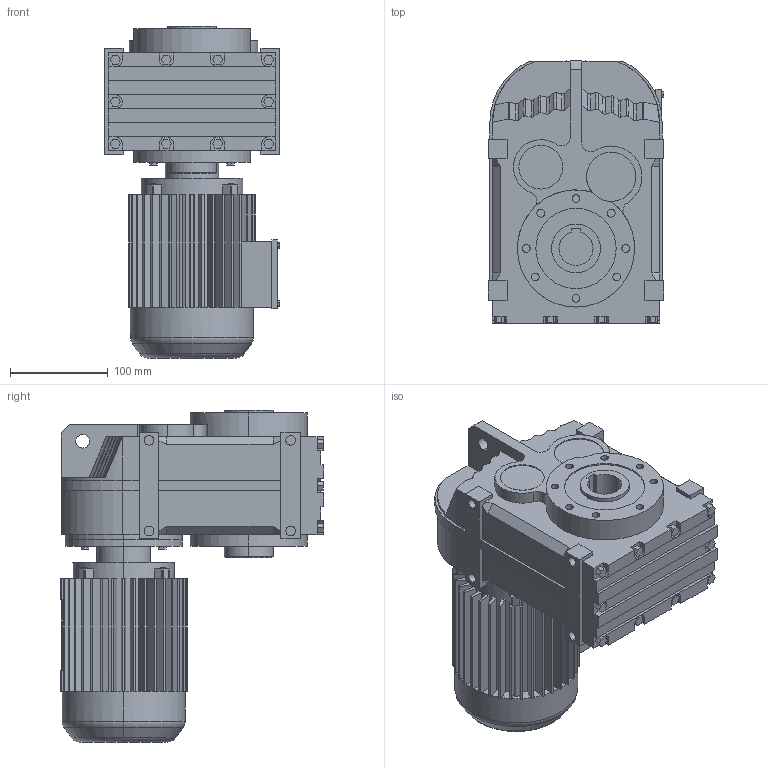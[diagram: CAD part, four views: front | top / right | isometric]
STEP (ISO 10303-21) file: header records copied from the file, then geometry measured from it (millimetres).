
FILE_DESCRIPTION(('Open CASCADE Model'),'2;1');
FILE_NAME('Open CASCADE Shape Model','2021-07-14T17:17:44',('Author'),( 'Open CASCADE'),'Open CASCADE STEP processor 6.3','Open CASCADE 6.3' ,'Unknown');
FILE_SCHEMA(('AUTOMOTIVE_DESIGN_CC2 { 1 2 10303 214 -1 1 5 4 }'));
Length unit declared in the file: millimetre
Products named in the file (4): 1_FA47-Y63S; FA27‵157_47.step; 萇儂_120.step; す瑩諾陑粣F_47.step
Assembly tree (3 placements, depth 2):
  1_FA47-Y63S
    FA27‵157_47.step
    萇儂_120.step
    す瑩諾陑粣F_47.step
Bounding box: 180 x 270.1 x 340 mm (x, y, z)
Volume: 6845924.1 mm3; surface area: 493054.3 mm2
Topology: 3 solids, 3 shells, 782 faces, 2063 edges, 1342 vertices
Faces by surface type: plane 566, cylinder 194, bspline 16, torus 4, cone 2
Entity records: 51978 total; most frequent: CARTESIAN_POINT 12279, DIRECTION 6969, ORIENTED_EDGE 4126, PCURVE 4126, DEFINITIONAL_REPRESENTATION 4126, LINE 3941, VECTOR 3941, EDGE_CURVE 2063
